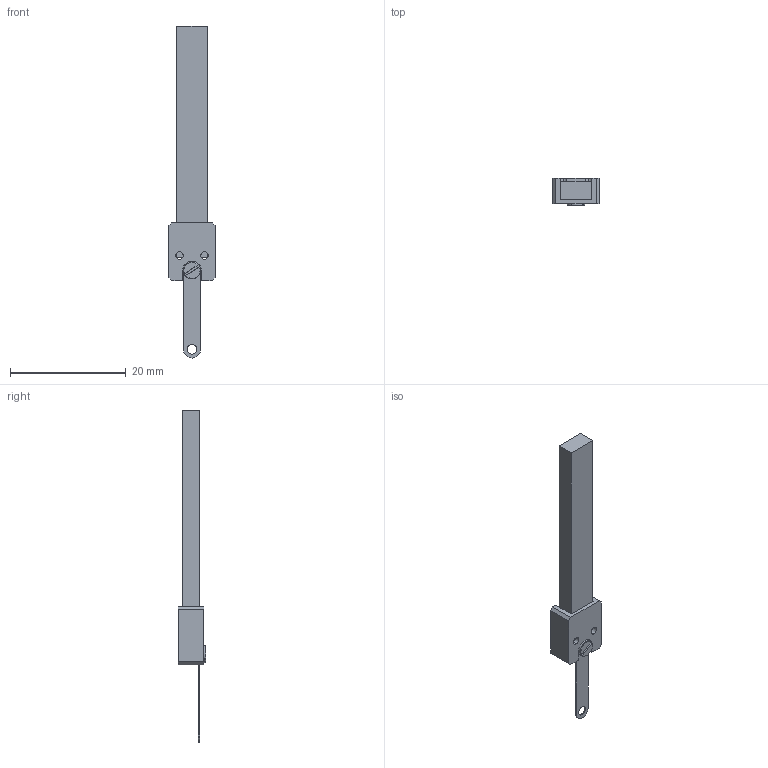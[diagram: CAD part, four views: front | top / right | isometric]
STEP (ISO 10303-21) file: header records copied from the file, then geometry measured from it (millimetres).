
FILE_DESCRIPTION (( 'STEP AP214' ), '1' );
FILE_NAME ('LT4040D_DriveRod_040D1D2-PiezoMotor.STEP', '2017-11-15T15:50:10', ( '' ), ( '' ), 'SwSTEP 2.0', 'SolidWorks 2017', '' );
FILE_SCHEMA (( 'AUTOMOTIVE_DESIGN' ));
Length unit declared in the file: millimetre
Products named in the file (2): LT4040D_DriveRod_040D1D2-PiezoMotor
Bounding box: 8 x 4.8 x 57.35 mm (x, y, z)
Volume: 861 mm3; surface area: 1210 mm2
Topology: 4 solids, 4 shells, 64 faces, 166 edges, 109 vertices
Faces by surface type: plane 37, cylinder 20, cone 7
Entity records: 2065 total; most frequent: CARTESIAN_POINT 353, DIRECTION 349, ORIENTED_EDGE 332, EDGE_CURVE 166, AXIS2_PLACEMENT_3D 121, VERTEX_POINT 109, VECTOR 107, LINE 107
